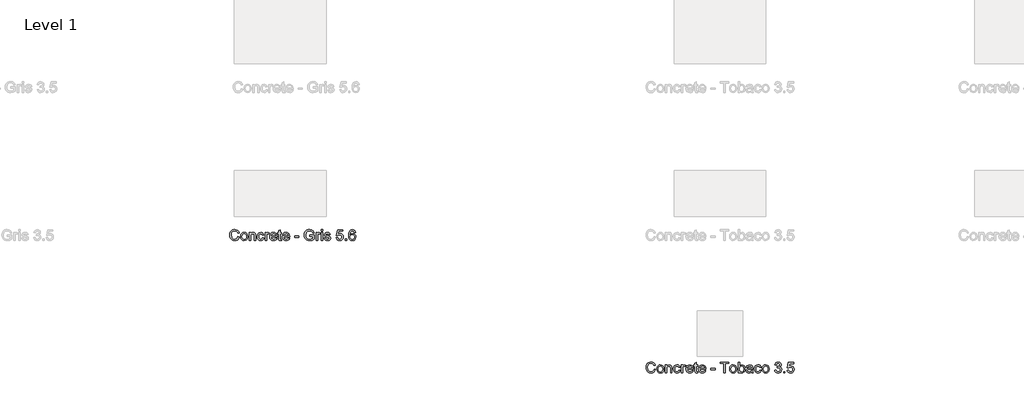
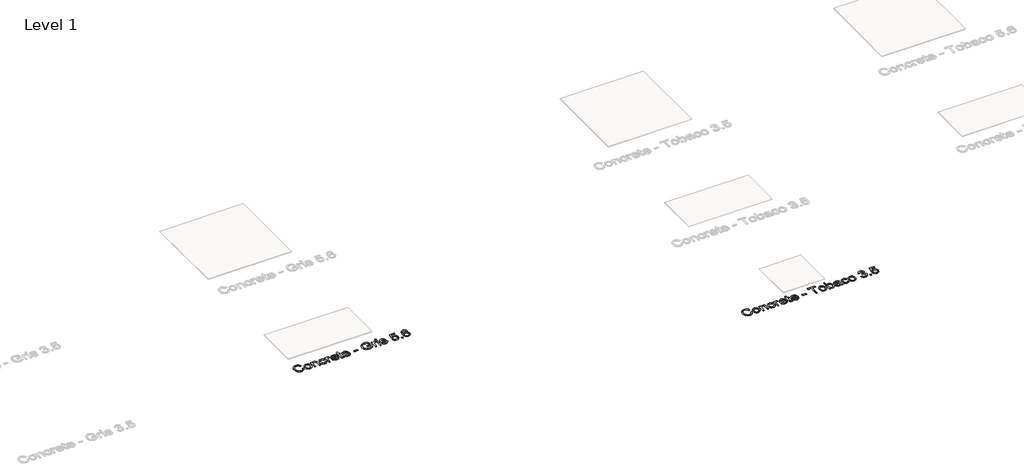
# One storey, part 48 of 80: 2 proxies.
"""IFC4 building model written with IfcOpenShell, lengths in millimetres."""

import ifcopenshell
import ifcopenshell.guid

model = None  # the IFC model being written
_history = None  # IfcOwnerHistory: only IFC2X3 demands one
_inside = {}  # id of a spatial element -> (the spatial element, [elements in it])
_under = {}  # id of a project, library or spatial element -> (it, [spatial elements below it])
_declared = {}  # id of a project -> (the project, [libraries it declares])
_typed = {}  # id of a type object -> (the type object, [elements of that type])
_made_of = {}  # id of a material, layer set ... -> (it, [elements and type objects made of it])


def new_model(schema):
    """Start an empty IFC model of exactly this schema.

    Asked for "IFC4X3", IfcOpenShell would pick the latest addendum, in which some entities
    have other attributes; the version numbers below select the first issue.
    IFC2X3 requires an IfcOwnerHistory on every rooted entity: one is made here for all.
    """
    global model, _history
    if schema == "IFC4X3":
        model = ifcopenshell.file(schema_version=(4, 3, 0, 0))
    else:
        model = ifcopenshell.file(schema=schema)
    _inside.clear()
    _under.clear()
    _declared.clear()
    _typed.clear()
    _made_of.clear()
    _history = None
    if model.schema == "IFC2X3":
        org = make("IfcOrganization", Name="unknown")
        user = make(
            "IfcPersonAndOrganization",
            ThePerson=make("IfcPerson", FamilyName="unknown"),
            TheOrganization=org,
        )
        app = make(
            "IfcApplication",
            ApplicationDeveloper=org,
            Version="unknown",
            ApplicationFullName="unknown",
            ApplicationIdentifier="unknown",
        )
        _history = make(
            "IfcOwnerHistory",
            OwningUser=user,
            OwningApplication=app,
            ChangeAction="ADDED",
            CreationDate=0,
        )
    return model


def make(cls, **values):
    """One entity of the class cls with the attributes given. An attribute that is None is left unset."""
    return model.create_entity(
        cls, **{name: value for name, value in values.items() if value is not None}
    )


def rooted(cls, **values):
    """An entity with a GlobalId (a new one), such as an element, a storey or a relation."""
    return make(cls, GlobalId=ifcopenshell.guid.new(), OwnerHistory=_history, **values)


def si_unit(unit_type, name, prefix=None):
    """IfcSIUnit, for example si_unit("LENGTHUNIT", "METRE", prefix="MILLI")."""
    return make("IfcSIUnit", UnitType=unit_type, Prefix=prefix, Name=name)


def assignment(units):
    """IfcUnitAssignment: the units of a project."""
    return None if units is None else make("IfcUnitAssignment", Units=units)


def point(xyz):
    """IfcCartesianPoint."""
    return None if xyz is None else make("IfcCartesianPoint", Coordinates=xyz)


def direction(xyz):
    """IfcDirection."""
    return None if xyz is None else make("IfcDirection", DirectionRatios=xyz)


def frame(location, z_axis=None, x_axis=None):
    """IfcAxis2Placement3D, a coordinate frame: its origin and axes. An axis left out is left unset."""
    return make(
        "IfcAxis2Placement3D",
        Location=point(location),
        Axis=direction(z_axis),
        RefDirection=direction(x_axis),
    )


def origin():
    """The frame at (0, 0, 0) with its axes left unset."""
    return frame((0.0, 0.0, 0.0))


def origin_with_axes():
    """The frame at (0, 0, 0) with the z axis (0, 0, 1) and the x axis (1, 0, 0) written out."""
    return frame((0.0, 0.0, 0.0), z_axis=(0.0, 0.0, 1.0), x_axis=(1.0, 0.0, 0.0))


def place(relative_to, where):
    """IfcLocalPlacement: puts the frame where relative to a parent placement (None: the world)."""
    return make(
        "IfcLocalPlacement", PlacementRelTo=relative_to, RelativePlacement=where
    )


def context(
    kind, dimensions, precision=None, world=None, true_north=None, identifier=None
):
    """IfcGeometricRepresentationContext, for example the 3D "Model" context."""
    return make(
        "IfcGeometricRepresentationContext",
        ContextIdentifier=identifier,
        ContextType=kind,
        CoordinateSpaceDimension=dimensions,
        Precision=precision,
        WorldCoordinateSystem=world,
        TrueNorth=true_north,
    )


def project(units=None, contexts=None):
    """IfcProject with its units and contexts."""
    return rooted(
        "IfcProject",
        Name="project",
        RepresentationContexts=contexts,
        UnitsInContext=assignment(units),
    )


def spatial(cls, under=None, at=None, **own):
    """A site, building, storey or space (cls), placed at a placement, below another one or the project."""
    s = rooted(cls, ObjectPlacement=at, **own)
    if under is not None:
        _under.setdefault(under.id(), (under, []))[1].append(s)
    return s


def polyline(points):
    """IfcPolyline through the points."""
    return make("IfcPolyline", Points=[point(p) for p in points])


def outline(outer, holes=None, kind="AREA"):
    """IfcArbitraryClosedProfileDef: a profile drawn as a closed curve; with holes, ...WithVoids."""
    if holes is None:
        return make("IfcArbitraryClosedProfileDef", ProfileType=kind, OuterCurve=outer)
    return make(
        "IfcArbitraryProfileDefWithVoids",
        ProfileType=kind,
        OuterCurve=outer,
        InnerCurves=holes,
    )


def extrude(swept, where, along, depth):
    """IfcExtrudedAreaSolid: the profile swept, set in the frame where, extruded along a direction by depth."""
    return make(
        "IfcExtrudedAreaSolid",
        SweptArea=swept,
        Position=where,
        ExtrudedDirection=direction(along),
        Depth=depth,
    )


def shape(context_of_items, identifier, shape_type, items):
    """IfcShapeRepresentation: the items that make up one representation, for example the "Body"."""
    return make(
        "IfcShapeRepresentation",
        ContextOfItems=context_of_items,
        RepresentationIdentifier=identifier,
        RepresentationType=shape_type,
        Items=items,
    )


def made_of(thing, what):
    """Note that an element or type object is made of a material, layer set ...; save() writes the relation."""
    if what is not None:
        _made_of.setdefault(what.id(), (what, []))[1].append(thing)
    return thing


def element(
    cls,
    number,
    at=None,
    inside=None,
    cuts=None,
    type_object=None,
    material=None,
    context=None,
    identifier="Body",
    shape_type=None,
    held_by="IfcProductDefinitionShape",
    body=None,
    shapes=None,
    **own,
):
    """One element of the class cls, such as IfcWall. Its Tag is "e" and its number.

    at: its placement. inside: the storey or other place that contains it. cuts: it is an
    opening in that element (IfcRelVoidsElement). A single representation is given by context,
    identifier, shape_type and body (its items); several are given by shapes. held_by: the class
    of the entity that holds the representations. save() writes the other relations.
    """
    e = rooted(cls, Tag="e%d" % number, ObjectPlacement=at, **own)
    if body is not None:
        shapes = [shape(context, identifier, shape_type, body)]
    if shapes is not None:
        e.Representation = make(held_by, Representations=shapes)
    if inside is not None:
        _inside.setdefault(inside.id(), (inside, []))[1].append(e)
    if cuts is not None:
        rooted(
            "IfcRelVoidsElement", RelatingBuildingElement=cuts, RelatedOpeningElement=e
        )
    if type_object is not None:
        _typed.setdefault(type_object.id(), (type_object, []))[1].append(e)
    return made_of(e, material)


def aggregate(whole, parts):
    """IfcRelAggregates: a whole, such as a stair, and the parts it consists of."""
    return rooted("IfcRelAggregates", RelatingObject=whole, RelatedObjects=parts)


def save(model, path):
    """Write the relations noted so far, then the file.

    IfcRelAggregates (storeys below a building ...), IfcRelContainedInSpatialStructure (elements
    in a storey), IfcRelDefinesByType, IfcRelAssociatesMaterial and IfcRelDeclares: one each for
    every whole, place, type object, material and project.
    """
    for whole, parts in _under.values():
        aggregate(whole, parts)
    for where, things in _inside.values():
        rooted(
            "IfcRelContainedInSpatialStructure",
            RelatedElements=things,
            RelatingStructure=where,
        )
    for kind, things in _typed.values():
        rooted("IfcRelDefinesByType", RelatedObjects=things, RelatingType=kind)
    for what, things in _made_of.values():
        rooted("IfcRelAssociatesMaterial", RelatedObjects=things, RelatingMaterial=what)
    for by, libraries in _declared.values():
        rooted("IfcRelDeclares", RelatingContext=by, RelatedDefinitions=libraries)
    model.write(path)


model = new_model("IFC4")

# Units and contexts
model_context = context("Model", 3, world=origin())
ifc_project = project(units=[si_unit("LENGTHUNIT", "METRE", prefix="MILLI")], contexts=[model_context])

# Site, building, storey
site = spatial("IfcSite", under=ifc_project)
building = spatial("IfcBuilding", under=site)
storey = spatial("IfcBuildingStorey", under=building, Name="Level 1", Elevation=0.0)

# Proxies
placement = place(None, origin())
element("IfcBuildingElementProxy", 1, Name="24\" Arial", ObjectType="24\" Arial", at=placement, inside=storey, context=model_context, shape_type="SweptSolid", body=[
    extrude(outline(polyline([(-15667.0761079, 7132.3794502), (-15652.3068771, 7128.5717579), (-15659.121781, 7111.3614213), (-15669.8164925, 7098.788104), (-15683.8645694, 7091.0969982), (-15700.7395694, 7088.5332963), (-15717.8705791, 7090.4732002), (-15731.4751464, 7096.2929117), (-15741.903031, 7105.7905079), (-15749.5039925, 7118.7640655), (-15754.1446175, 7134.0164694), (-15755.6914925, 7150.350604), (-15753.9426944, 7167.5789694), (-15748.6963002, 7182.4563732), (-15740.2263483, 7194.5104598), (-15728.8068771, 7203.2688732), (-15715.2636079, 7208.6018059), (-15700.4222617, 7210.3794502), (-15684.2287521, 7208.0789694), (-15670.840531, 7201.1775271), (-15660.6758675, 7190.100604), (-15654.153031, 7175.2736809), (-15668.9222617, 7171.7544502), (-15674.0424541, 7182.5248829), (-15681.0376464, 7189.913104), (-15689.9943771, 7194.1859405), (-15700.9991848, 7195.6102194), (-15713.684281, 7194.0308925), (-15724.1049541, 7189.2929117), (-15732.012406, 7181.8938732), (-15737.1578387, 7172.3313732), (-15740.9222617, 7150.3794502), (-15736.465531, 7124.9371425), (-15730.7684156, 7115.4359405), (-15722.590531, 7108.6823348), (-15702.2107233, 7103.3025271), (-15689.8825983, 7105.1342579), (-15679.6097617, 7110.6294502), (-15671.8537521, 7119.7304117), (-15667.0761079, 7132.3794502)])), origin_with_axes(), (0.0, 0.0, 1.0), 2.0),
    extrude(outline(polyline([(-15637.5376464, 7133.7640655), (-15634.3429348, 7154.6847386), (-15624.7588002, 7169.3890655), (-15612.9174541, 7176.5933925), (-15598.7395694, 7178.9948348), (-15583.2239444, 7176.0705559), (-15570.8309156, 7167.2977194), (-15562.7071175, 7153.3686329), (-15559.9991848, 7134.975604), (-15564.7876464, 7108.6967579), (-15578.7347617, 7093.8265655), (-15598.7395694, 7088.5332963), (-15614.4426944, 7091.4467579), (-15626.8213002, 7100.1871425), (-15634.8585598, 7114.4082963), (-15637.5376464, 7133.7640655)]), holes=[polyline([(-15622.7684156, 7133.7929117), (-15621.059281, 7120.4263252), (-15615.9318771, 7110.9034886), (-15608.215531, 7105.2027675), (-15598.7395694, 7103.3025271), (-15589.3068771, 7105.2135848), (-15581.6049541, 7110.9467579), (-15576.4775502, 7120.5957963), (-15574.7684156, 7134.2544502), (-15576.4883675, 7147.2316136), (-15581.6482233, 7156.6246425), (-15589.3609637, 7162.3253636), (-15598.7395694, 7164.225604), (-15608.215531, 7162.3325752), (-15615.9318771, 7156.6534886), (-15621.059281, 7147.1522867), (-15622.7684156, 7133.7929117)])]), origin_with_axes(), (0.0, 0.0, 1.0), 2.0),
    extrude(outline(polyline([(-15543.3838002, 7090.3794502), (-15543.3838002, 7177.1486809), (-15528.6145694, 7177.1486809), (-15528.6145694, 7165.0332963), (-15517.3213002, 7175.5044502), (-15501.903031, 7178.9948348), (-15487.9559156, 7176.1823348), (-15478.4366848, 7168.7977194), (-15474.0088002, 7157.9371425), (-15473.2299541, 7143.6582963), (-15473.2299541, 7090.3794502), (-15487.9991848, 7090.3794502), (-15487.9991848, 7141.6679117), (-15489.7011079, 7154.7352194), (-15495.715531, 7161.6438732), (-15505.8549541, 7164.225604), (-15521.8789925, 7158.4275271), (-15526.9306752, 7150.0260848), (-15528.6145694, 7136.4179117), (-15528.6145694, 7090.3794502), (-15543.3838002, 7090.3794502)])), origin_with_axes(), (0.0, 0.0, 1.0), 2.0),
    extrude(outline(polyline([(-15397.5376464, 7121.7640655), (-15382.7684156, 7119.9179117), (-15386.8862041, 7106.7820944), (-15394.6241848, 7096.8554117), (-15405.2539925, 7090.6138252), (-15418.0472617, 7088.5332963), (-15433.7575983, 7091.4359405), (-15446.0424541, 7100.1438732), (-15453.9715406, 7114.2748829), (-15456.6145694, 7133.4467579), (-15452.1001464, 7157.9804117), (-15446.403031, 7167.178729), (-15438.340531, 7173.7448348), (-15418.2491848, 7178.9948348), (-15405.7696175, 7177.1919502), (-15395.7924541, 7171.7832963), (-15388.6350021, 7163.0573348), (-15384.6145694, 7151.3025271), (-15399.3838002, 7149.4563732), (-15406.2347617, 7160.5188732), (-15418.1338002, 7164.225604), (-15427.6782714, 7162.4010848), (-15435.2539925, 7156.9275271), (-15440.1975021, 7147.5092579), (-15441.8453387, 7133.850604), (-15440.2335598, 7120.0080559), (-15435.3982233, 7110.5573348), (-15427.9595214, 7105.116229), (-15418.5376464, 7103.3025271), (-15404.6193771, 7107.8313732), (-15397.5376464, 7121.7640655)])), origin_with_axes(), (0.0, 0.0, 1.0), 2.0),
    extrude(outline(polyline([(-15369.8453387, 7090.3794502), (-15369.8453387, 7177.1486809), (-15356.9222617, 7177.1486809), (-15356.9222617, 7164.3121425), (-15347.7491848, 7176.1390655), (-15338.5184156, 7178.9948348), (-15323.6914925, 7174.4371425), (-15328.6241848, 7161.1967579), (-15339.0088002, 7164.225604), (-15347.3597617, 7161.3121425), (-15352.6818771, 7153.2352194), (-15355.0761079, 7135.9852194), (-15355.0761079, 7090.3794502), (-15369.8453387, 7090.3794502)])), origin_with_axes(), (0.0, 0.0, 1.0), 2.0),
    extrude(outline(polyline([(-15253.7107233, 7116.225604), (-15239.2299541, 7114.3794502), (-15244.4475021, 7103.4683925), (-15252.7732233, 7095.3121425), (-15264.0196175, 7090.2280079), (-15277.9991848, 7088.5332963), (-15295.3285117, 7091.4575752), (-15308.6626464, 7100.2304117), (-15317.1650502, 7114.2820944), (-15319.9991848, 7133.0429117), (-15317.1362041, 7152.4347386), (-15308.5472617, 7166.9371425), (-15295.3934156, 7175.9804117), (-15278.8357233, 7178.9948348), (-15262.793656, 7175.9876232), (-15249.9751464, 7166.9659886), (-15241.5700983, 7152.4924309), (-15238.7684156, 7133.1294502), (-15238.8549541, 7129.1486809), (-15305.2299541, 7129.1486809), (-15302.6734637, 7118.0933925), (-15296.7347617, 7109.9659886), (-15288.1638483, 7104.9683925), (-15277.7107233, 7103.3025271), (-15263.2299541, 7106.3890655), (-15253.7107233, 7116.225604)]), holes=[polyline([(-15305.2299541, 7143.9179117), (-15253.5376464, 7143.9179117), (-15259.4511079, 7157.3025271), (-15268.0616848, 7162.4948348), (-15278.8934156, 7164.225604), (-15297.0809156, 7158.7015655), (-15302.8032714, 7152.2436329), (-15305.2299541, 7143.9179117)])]), origin_with_axes(), (0.0, 0.0, 1.0), 2.0),
    extrude(outline(polyline([(-15192.6145694, 7102.6967579), (-15190.7684156, 7089.9467579), (-15201.8164925, 7088.5332963), (-15214.1914925, 7090.9852194), (-15220.3645694, 7097.4179117), (-15222.153031, 7114.1775271), (-15222.153031, 7162.3794502), (-15233.2299541, 7162.3794502), (-15233.2299541, 7177.1486809), (-15222.153031, 7177.1486809), (-15222.153031, 7198.2352194), (-15207.3838002, 7206.9179117), (-15207.3838002, 7177.1486809), (-15192.6145694, 7177.1486809), (-15192.6145694, 7162.3794502), (-15207.3838002, 7162.3794502), (-15207.3838002, 7114.6102194), (-15206.6049541, 7106.9948348), (-15204.0809156, 7104.2977194), (-15199.0472617, 7103.3025271), (-15192.6145694, 7102.6967579)])), origin_with_axes(), (0.0, 0.0, 1.0), 2.0),
    extrude(outline(polyline([(-15117.0953387, 7116.225604), (-15102.6145694, 7114.3794502), (-15107.8321175, 7103.4683925), (-15116.1578387, 7095.3121425), (-15127.4042329, 7090.2280079), (-15141.3838002, 7088.5332963), (-15158.7131271, 7091.4575752), (-15172.0472617, 7100.2304117), (-15180.5496656, 7114.2820944), (-15183.3838002, 7133.0429117), (-15180.5208194, 7152.4347386), (-15171.9318771, 7166.9371425), (-15158.778031, 7175.9804117), (-15142.2203387, 7178.9948348), (-15126.1782714, 7175.9876232), (-15113.3597617, 7166.9659886), (-15104.9547137, 7152.4924309), (-15102.153031, 7133.1294502), (-15102.2395694, 7129.1486809), (-15168.6145694, 7129.1486809), (-15166.0580791, 7118.0933925), (-15160.1193771, 7109.9659886), (-15151.5484637, 7104.9683925), (-15141.0953387, 7103.3025271), (-15126.6145694, 7106.3890655), (-15117.0953387, 7116.225604)]), holes=[polyline([(-15168.6145694, 7143.9179117), (-15116.9222617, 7143.9179117), (-15122.8357233, 7157.3025271), (-15131.4463002, 7162.4948348), (-15142.278031, 7164.225604), (-15160.465531, 7158.7015655), (-15166.1878867, 7152.2436329), (-15168.6145694, 7143.9179117)])]), origin_with_axes(), (0.0, 0.0, 1.0), 2.0),
    extrude(outline(polyline([(-15048.6145694, 7125.4563732), (-15048.6145694, 7140.225604), (-15002.4607233, 7140.225604), (-15002.4607233, 7125.4563732), (-15048.6145694, 7125.4563732)])), origin_with_axes(), (0.0, 0.0, 1.0), 2.0),
    extrude(outline(polyline([(-14882.4607233, 7136.5332963), (-14882.4607233, 7151.3025271), (-14834.4607233, 7151.3025271), (-14834.4607233, 7107.1390655), (-14858.1578387, 7093.2063732), (-14883.2107233, 7088.5332963), (-14899.7792329, 7090.3902675), (-14914.7539925, 7095.9611809), (-14927.1938964, 7105.0513252), (-14936.1578387, 7117.4659886), (-14941.5773098, 7132.3578155), (-14943.3838002, 7148.8794502), (-14941.5845214, 7165.5200752), (-14936.1866848, 7180.9996425), (-14927.4138483, 7193.9840175), (-14915.4895694, 7203.1390655), (-14900.965531, 7208.569354), (-14884.3934156, 7210.3794502), (-14861.2876464, 7206.1823348), (-14845.090531, 7194.4996425), (-14836.1626464, 7174.9563732), (-14849.778031, 7171.1198348), (-14856.5136079, 7184.7784886), (-14868.0232233, 7192.6534886), (-14884.6241848, 7195.6102194), (-14903.5328387, 7192.4227194), (-14916.3982233, 7184.0573348), (-14923.9991848, 7172.6775271), (-14928.6145694, 7149.4852194), (-14927.2263483, 7135.3614213), (-14923.0616848, 7123.7400271), (-14916.246781, 7114.7039694), (-14906.9078387, 7108.3361809), (-14884.3934156, 7103.3025271), (-14864.1866848, 7107.0957963), (-14849.2299541, 7115.1871425), (-14849.2299541, 7136.5332963), (-14882.4607233, 7136.5332963)])), origin_with_axes(), (0.0, 0.0, 1.0), 2.0),
    extrude(outline(polyline([(-14812.3068771, 7090.3794502), (-14812.3068771, 7177.1486809), (-14799.3838002, 7177.1486809), (-14799.3838002, 7164.3121425), (-14790.2107233, 7176.1390655), (-14780.9799541, 7178.9948348), (-14766.153031, 7174.4371425), (-14771.0857233, 7161.1967579), (-14781.4703387, 7164.225604), (-14789.8213002, 7161.3121425), (-14795.1434156, 7153.2352194), (-14797.5376464, 7135.9852194), (-14797.5376464, 7090.3794502), (-14812.3068771, 7090.3794502)])), origin_with_axes(), (0.0, 0.0, 1.0), 2.0),
    extrude(outline(polyline([(-14756.9222617, 7193.7640655), (-14756.9222617, 7208.5332963), (-14742.153031, 7208.5332963), (-14742.153031, 7193.7640655), (-14756.9222617, 7193.7640655)])), origin_with_axes(), (0.0, 0.0, 1.0), 2.0),
    extrude(outline(polyline([(-14756.9222617, 7090.3794502), (-14756.9222617, 7177.1486809), (-14742.153031, 7177.1486809), (-14742.153031, 7090.3794502), (-14756.9222617, 7090.3794502)])), origin_with_axes(), (0.0, 0.0, 1.0), 2.0),
    extrude(outline(polyline([(-14725.5376464, 7116.225604), (-14710.7684156, 7118.0717579), (-14703.9318771, 7107.1102194), (-14688.2684156, 7103.3025271), (-14673.2107233, 7106.7929117), (-14668.3068771, 7114.9852194), (-14673.2395694, 7121.6198348), (-14688.4414925, 7125.8313732), (-14710.6818771, 7133.0573348), (-14720.3886079, 7141.4948348), (-14723.6914925, 7153.4082963), (-14721.0376464, 7164.413104), (-14713.7972617, 7172.8217579), (-14704.4078387, 7177.1919502), (-14691.7011079, 7178.9948348), (-14673.7299541, 7176.0957963), (-14662.3068771, 7168.2496425), (-14657.2299541, 7154.9948348), (-14671.9991848, 7153.1486809), (-14677.5520694, 7161.2977194), (-14690.5472617, 7164.225604), (-14704.6818771, 7161.4275271), (-14708.9222617, 7154.9082963), (-14707.1626464, 7150.6102194), (-14701.653031, 7147.350604), (-14688.9318771, 7144.2063732), (-14667.2539925, 7137.2544502), (-14657.1866848, 7129.3794502), (-14653.5376464, 7116.5429117), (-14657.8213002, 7102.4082963), (-14670.1818771, 7092.1534886), (-14688.4703387, 7088.5332963), (-14703.3621656, 7090.2784886), (-14714.2299541, 7095.5140655), (-14721.4847617, 7104.1823348), (-14725.5376464, 7116.225604)])), origin_with_axes(), (0.0, 0.0, 1.0), 2.0),
    extrude(outline(polyline([(-14594.4607233, 7121.7640655), (-14579.6914925, 7123.6102194), (-14572.2491848, 7108.3938732), (-14556.8164925, 7103.3025271), (-14546.2299541, 7105.0729598), (-14538.2972617, 7110.3842579), (-14533.3429348, 7118.6234405), (-14531.6914925, 7129.1775271), (-14533.2383675, 7139.1150271), (-14537.8789925, 7146.7159886), (-14545.6494252, 7151.5405079), (-14556.5857233, 7153.1486809), (-14569.5520694, 7150.5813732), (-14577.8453387, 7143.9179117), (-14592.6145694, 7145.7640655), (-14579.6914925, 7206.6871425), (-14522.4607233, 7206.6871425), (-14522.4607233, 7191.9179117), (-14567.7491848, 7191.9179117), (-14574.0664925, 7159.3794502), (-14563.5160117, 7165.7832963), (-14552.4607233, 7167.9179117), (-14538.6614444, 7165.2712771), (-14527.2059156, 7157.3313732), (-14519.4931752, 7145.2304117), (-14516.9222617, 7130.100604), (-14519.2371656, 7115.3313732), (-14526.1818771, 7102.6967579), (-14539.4799541, 7092.0741617), (-14556.8741848, 7088.5332963), (-14571.3801944, 7090.8085367), (-14582.9366848, 7097.6342579), (-14590.8585598, 7108.2171905), (-14594.4607233, 7121.7640655)])), origin_with_axes(), (0.0, 0.0, 1.0), 2.0),
    extrude(outline(polyline([(-14496.6145694, 7090.3794502), (-14496.6145694, 7105.1486809), (-14481.8453387, 7105.1486809), (-14481.8453387, 7090.3794502), (-14496.6145694, 7090.3794502)])), origin_with_axes(), (0.0, 0.0, 1.0), 2.0),
    extrude(outline(polyline([(-14382.153031, 7177.1486809), (-14396.9222617, 7175.3025271), (-14402.5184156, 7187.6198348), (-14409.2179348, 7192.2280079), (-14417.3164925, 7193.7640655), (-14430.6434156, 7190.1871425), (-14440.7251464, 7176.7592579), (-14444.9222617, 7150.4371425), (-14431.8982233, 7162.2207963), (-14415.7588002, 7166.0717579), (-14402.1145694, 7163.4395463), (-14390.6626464, 7155.5429117), (-14382.8958194, 7143.4780079), (-14380.3068771, 7128.3409886), (-14385.1818771, 7107.9611809), (-14398.5953387, 7093.538104), (-14417.9511079, 7088.5332963), (-14434.7071175, 7091.850604), (-14448.0520694, 7101.8025271), (-14456.7816367, 7119.3698348), (-14459.6914925, 7145.5332963), (-14456.4607233, 7174.9491617), (-14446.7684156, 7195.0621425), (-14433.5352425, 7205.1655079), (-14416.3934156, 7208.5332963), (-14403.434281, 7206.4491617), (-14393.0568771, 7200.1967579), (-14385.7876464, 7190.2664694), (-14382.153031, 7177.1486809)]), holes=[polyline([(-14444.9222617, 7128.5717579), (-14441.5039925, 7115.7784886), (-14432.4174541, 7106.4900271), (-14419.1049541, 7103.3025271), (-14409.3585598, 7104.9539694), (-14401.6963002, 7109.9082963), (-14396.731156, 7117.6967579), (-14395.0761079, 7127.850604), (-14396.7095214, 7137.5969982), (-14401.6097617, 7145.0284886), (-14409.4018291, 7149.7340175), (-14419.7107233, 7151.3025271), (-14429.4426944, 7149.7340175), (-14437.5809156, 7145.0284886), (-14443.0869252, 7137.7772867), (-14444.9222617, 7128.5717579)])]), origin_with_axes(), (0.0, 0.0, 1.0), 2.0),
])
element("IfcBuildingElementProxy", 2, Name="24\" Arial", ObjectType="24\" Arial", at=placement, inside=storey, context=model_context, shape_type="SweptSolid", body=[
    extrude(outline(polyline([(-11124.6145694, 5685.3136623), (-11109.8453387, 5681.50597), (-11116.6602425, 5664.2956335), (-11127.3549541, 5651.7223162), (-11141.403031, 5644.0312104), (-11158.278031, 5641.4675085), (-11175.4090406, 5643.4074123), (-11189.0136079, 5649.2271239), (-11199.4414925, 5658.72472), (-11207.0424541, 5671.6982777), (-11211.6830791, 5686.9506816), (-11213.2299541, 5703.2848162), (-11211.481156, 5720.5131816), (-11206.2347617, 5735.3905854), (-11197.7648098, 5747.444672), (-11186.3453387, 5756.2030854), (-11172.8020694, 5761.5360181), (-11157.9607233, 5763.3136623), (-11141.7672137, 5761.0131816), (-11128.3789925, 5754.1117393), (-11118.2143291, 5743.0348162), (-11111.6914925, 5728.2078931), (-11126.4607233, 5724.6886623), (-11131.5809156, 5735.459095), (-11138.5761079, 5742.8473162), (-11147.5328387, 5747.1201527), (-11158.5376464, 5748.5444316), (-11171.2227425, 5746.9651047), (-11181.6434156, 5742.2271239), (-11189.5508675, 5734.8280854), (-11194.6963002, 5725.2655854), (-11198.4607233, 5703.3136623), (-11194.0039925, 5677.8713547), (-11188.3068771, 5668.3701527), (-11180.1289925, 5661.616547), (-11159.7491848, 5656.2367393), (-11147.4210598, 5658.06847), (-11137.1482233, 5663.5636623), (-11129.3922137, 5672.6646239), (-11124.6145694, 5685.3136623)])), origin_with_axes(), (0.0, 0.0, 1.0), 2.0),
    extrude(outline(polyline([(-11095.0761079, 5686.6982777), (-11091.8813964, 5707.6189508), (-11082.2972617, 5722.3232777), (-11070.4559156, 5729.5276047), (-11056.278031, 5731.929047), (-11040.762406, 5729.0047681), (-11028.3693771, 5720.2319316), (-11020.2455791, 5706.302845), (-11017.5376464, 5687.9098162), (-11022.3261079, 5661.63097), (-11036.2732233, 5646.7607777), (-11056.278031, 5641.4675085), (-11071.981156, 5644.38097), (-11084.3597617, 5653.1213547), (-11092.3970214, 5667.3425085), (-11095.0761079, 5686.6982777)]), holes=[polyline([(-11080.3068771, 5686.7271239), (-11078.5977425, 5673.3605373), (-11073.4703387, 5663.8377008), (-11065.7539925, 5658.1369797), (-11056.278031, 5656.2367393), (-11046.8453387, 5658.147797), (-11039.1434156, 5663.88097), (-11034.0160117, 5673.5300085), (-11032.3068771, 5687.1886623), (-11034.0268291, 5700.1658258), (-11039.1866848, 5709.5588547), (-11046.8994252, 5715.2595758), (-11056.278031, 5717.1598162), (-11065.7539925, 5715.2667873), (-11073.4703387, 5709.5877008), (-11078.5977425, 5700.0864989), (-11080.3068771, 5686.7271239)])]), origin_with_axes(), (0.0, 0.0, 1.0), 2.0),
    extrude(outline(polyline([(-11000.9222617, 5643.3136623), (-11000.9222617, 5730.0828931), (-10986.153031, 5730.0828931), (-10986.153031, 5717.9675085), (-10974.8597617, 5728.4386623), (-10959.4414925, 5731.929047), (-10945.4943771, 5729.116547), (-10935.9751464, 5721.7319316), (-10931.5472617, 5710.8713547), (-10930.7684156, 5696.5925085), (-10930.7684156, 5643.3136623), (-10945.5376464, 5643.3136623), (-10945.5376464, 5694.6021239), (-10947.2395694, 5707.6694316), (-10953.2539925, 5714.5780854), (-10963.3934156, 5717.1598162), (-10979.4174541, 5711.3617393), (-10984.4691367, 5702.960297), (-10986.153031, 5689.3521239), (-10986.153031, 5643.3136623), (-11000.9222617, 5643.3136623)])), origin_with_axes(), (0.0, 0.0, 1.0), 2.0),
    extrude(outline(polyline([(-10855.0761079, 5674.6982777), (-10840.3068771, 5672.8521239), (-10844.4246656, 5659.7163066), (-10852.1626464, 5649.7896239), (-10862.7924541, 5643.5480373), (-10875.5857233, 5641.4675085), (-10891.2960598, 5644.3701527), (-10903.5809156, 5653.0780854), (-10911.5100021, 5667.209095), (-10914.153031, 5686.38097), (-10909.6386079, 5710.9146239), (-10903.9414925, 5720.1129412), (-10895.8789925, 5726.679047), (-10875.7876464, 5731.929047), (-10863.3080791, 5730.1261623), (-10853.3309156, 5724.7175085), (-10846.1734637, 5715.991547), (-10842.153031, 5704.2367393), (-10856.9222617, 5702.3905854), (-10863.7732233, 5713.4530854), (-10875.6722617, 5717.1598162), (-10885.2167329, 5715.335297), (-10892.7924541, 5709.8617393), (-10897.7359637, 5700.44347), (-10899.3838002, 5686.7848162), (-10897.7720214, 5672.9422681), (-10892.9366848, 5663.491547), (-10885.4979829, 5658.0504412), (-10876.0761079, 5656.2367393), (-10862.1578387, 5660.7655854), (-10855.0761079, 5674.6982777)])), origin_with_axes(), (0.0, 0.0, 1.0), 2.0),
    extrude(outline(polyline([(-10827.3838002, 5643.3136623), (-10827.3838002, 5730.0828931), (-10814.4607233, 5730.0828931), (-10814.4607233, 5717.2463547), (-10805.2876464, 5729.0732777), (-10796.0568771, 5731.929047), (-10781.2299541, 5727.3713547), (-10786.1626464, 5714.13097), (-10796.5472617, 5717.1598162), (-10804.8982233, 5714.2463547), (-10810.2203387, 5706.1694316), (-10812.6145694, 5688.9194316), (-10812.6145694, 5643.3136623), (-10827.3838002, 5643.3136623)])), origin_with_axes(), (0.0, 0.0, 1.0), 2.0),
    extrude(outline(polyline([(-10711.2491848, 5669.1598162), (-10696.7684156, 5667.3136623), (-10701.9859637, 5656.4026047), (-10710.3116848, 5648.2463547), (-10721.5580791, 5643.16222), (-10735.5376464, 5641.4675085), (-10752.8669733, 5644.3917873), (-10766.2011079, 5653.1646239), (-10774.7035117, 5667.2163066), (-10777.5376464, 5685.9771239), (-10774.6746656, 5705.3689508), (-10766.0857233, 5719.8713547), (-10752.9318771, 5728.9146239), (-10736.3741848, 5731.929047), (-10720.3321175, 5728.9218354), (-10707.5136079, 5719.9002008), (-10699.1085598, 5705.4266431), (-10696.3068771, 5686.0636623), (-10696.3934156, 5682.0828931), (-10762.7684156, 5682.0828931), (-10760.2119252, 5671.0276047), (-10754.2732233, 5662.9002008), (-10745.7023098, 5657.9026047), (-10735.2491848, 5656.2367393), (-10720.7684156, 5659.3232777), (-10711.2491848, 5669.1598162)]), holes=[polyline([(-10762.7684156, 5696.8521239), (-10711.0761079, 5696.8521239), (-10716.9895694, 5710.2367393), (-10725.6001464, 5715.429047), (-10736.4318771, 5717.1598162), (-10754.6193771, 5711.6357777), (-10760.3417329, 5705.177845), (-10762.7684156, 5696.8521239)])]), origin_with_axes(), (0.0, 0.0, 1.0), 2.0),
    extrude(outline(polyline([(-10650.153031, 5655.63097), (-10648.3068771, 5642.88097), (-10659.3549541, 5641.4675085), (-10671.7299541, 5643.9194316), (-10677.903031, 5650.3521239), (-10679.6914925, 5667.1117393), (-10679.6914925, 5715.3136623), (-10690.7684156, 5715.3136623), (-10690.7684156, 5730.0828931), (-10679.6914925, 5730.0828931), (-10679.6914925, 5751.1694316), (-10664.9222617, 5759.8521239), (-10664.9222617, 5730.0828931), (-10650.153031, 5730.0828931), (-10650.153031, 5715.3136623), (-10664.9222617, 5715.3136623), (-10664.9222617, 5667.5444316), (-10664.1434156, 5659.929047), (-10661.6193771, 5657.2319316), (-10656.5857233, 5656.2367393), (-10650.153031, 5655.63097)])), origin_with_axes(), (0.0, 0.0, 1.0), 2.0),
    extrude(outline(polyline([(-10574.6338002, 5669.1598162), (-10560.153031, 5667.3136623), (-10565.3705791, 5656.4026047), (-10573.6963002, 5648.2463547), (-10584.9426944, 5643.16222), (-10598.9222617, 5641.4675085), (-10616.2515887, 5644.3917873), (-10629.5857233, 5653.1646239), (-10638.0881271, 5667.2163066), (-10640.9222617, 5685.9771239), (-10638.059281, 5705.3689508), (-10629.4703387, 5719.8713547), (-10616.3164925, 5728.9146239), (-10599.7588002, 5731.929047), (-10583.7167329, 5728.9218354), (-10570.8982233, 5719.9002008), (-10562.4931752, 5705.4266431), (-10559.6914925, 5686.0636623), (-10559.778031, 5682.0828931), (-10626.153031, 5682.0828931), (-10623.5965406, 5671.0276047), (-10617.6578387, 5662.9002008), (-10609.0869252, 5657.9026047), (-10598.6338002, 5656.2367393), (-10584.153031, 5659.3232777), (-10574.6338002, 5669.1598162)]), holes=[polyline([(-10626.153031, 5696.8521239), (-10574.4607233, 5696.8521239), (-10580.3741848, 5710.2367393), (-10588.9847617, 5715.429047), (-10599.8164925, 5717.1598162), (-10618.0039925, 5711.6357777), (-10623.7263483, 5705.177845), (-10626.153031, 5696.8521239)])]), origin_with_axes(), (0.0, 0.0, 1.0), 2.0),
    extrude(outline(polyline([(-10506.153031, 5678.3905854), (-10506.153031, 5693.1598162), (-10459.9991848, 5693.1598162), (-10459.9991848, 5678.3905854), (-10506.153031, 5678.3905854)])), origin_with_axes(), (0.0, 0.0, 1.0), 2.0),
    extrude(outline(polyline([(-10365.8453387, 5643.3136623), (-10365.8453387, 5746.6982777), (-10404.6145694, 5746.6982777), (-10404.6145694, 5761.4675085), (-10312.3068771, 5761.4675085), (-10312.3068771, 5746.6982777), (-10351.0761079, 5746.6982777), (-10351.0761079, 5643.3136623), (-10365.8453387, 5643.3136623)])), origin_with_axes(), (0.0, 0.0, 1.0), 2.0),
    extrude(outline(polyline([(-10301.2299541, 5686.6982777), (-10298.0352425, 5707.6189508), (-10288.4511079, 5722.3232777), (-10276.6097617, 5729.5276047), (-10262.4318771, 5731.929047), (-10246.9162521, 5729.0047681), (-10234.5232233, 5720.2319316), (-10226.3994252, 5706.302845), (-10223.6914925, 5687.9098162), (-10228.4799541, 5661.63097), (-10242.4270694, 5646.7607777), (-10262.4318771, 5641.4675085), (-10278.1350021, 5644.38097), (-10290.5136079, 5653.1213547), (-10298.5508675, 5667.3425085), (-10301.2299541, 5686.6982777)]), holes=[polyline([(-10286.4607233, 5686.7271239), (-10284.7515887, 5673.3605373), (-10279.6241848, 5663.8377008), (-10271.9078387, 5658.1369797), (-10262.4318771, 5656.2367393), (-10252.9991848, 5658.147797), (-10245.2972617, 5663.88097), (-10240.1698579, 5673.5300085), (-10238.4607233, 5687.1886623), (-10240.1806752, 5700.1658258), (-10245.340531, 5709.5588547), (-10253.0532714, 5715.2595758), (-10262.4318771, 5717.1598162), (-10271.9078387, 5715.2667873), (-10279.6241848, 5709.5877008), (-10284.7515887, 5700.0864989), (-10286.4607233, 5686.7271239)])]), origin_with_axes(), (0.0, 0.0, 1.0), 2.0),
    extrude(outline(polyline([(-10192.3068771, 5643.3136623), (-10207.0761079, 5643.3136623), (-10207.0761079, 5761.4675085), (-10192.3068771, 5761.4675085), (-10192.3068771, 5717.6502008), (-10181.965531, 5728.3593354), (-10169.1145694, 5731.929047), (-10154.3164925, 5728.7127008), (-10142.8357233, 5719.6694316), (-10135.7828387, 5705.6069316), (-10133.2299541, 5687.9963547), (-10135.8729829, 5668.2800085), (-10143.8020694, 5653.6117393), (-10155.4378867, 5644.5035662), (-10169.2011079, 5641.4675085), (-10182.3333194, 5645.3833739), (-10192.3068771, 5657.13097), (-10192.3068771, 5643.3136623)]), holes=[polyline([(-10192.3068771, 5687.304047), (-10188.2684156, 5666.6502008), (-10180.5304348, 5658.8401047), (-10170.4703387, 5656.2367393), (-10161.9463002, 5658.1550085), (-10154.6626464, 5663.9098162), (-10149.6650502, 5673.4651047), (-10147.9991848, 5686.7848162), (-10149.5965406, 5700.2992393), (-10154.3886079, 5709.7463547), (-10161.4450983, 5715.3064508), (-10169.8357233, 5717.1598162), (-10178.3597617, 5715.241547), (-10185.6434156, 5709.4867393), (-10190.6410117, 5700.1045277), (-10192.3068771, 5687.304047)])]), origin_with_axes(), (0.0, 0.0, 1.0), 2.0),
    extrude(outline(polyline([(-10061.2299541, 5654.3905854), (-10075.5520694, 5644.38097), (-10091.3741848, 5641.4675085), (-10103.7167329, 5643.2199123), (-10112.8213002, 5648.4771239), (-10118.4354829, 5656.460297), (-10120.3068771, 5666.3905854), (-10117.4799541, 5678.0732777), (-10110.0520694, 5686.554047), (-10099.7107233, 5691.4002008), (-10086.9318771, 5693.6213547), (-10061.3164925, 5698.6982777), (-10061.2299541, 5701.9867393), (-10065.2972617, 5712.8905854), (-10081.6241848, 5717.1598162), (-10096.5664925, 5714.31847), (-10103.6914925, 5704.2367393), (-10118.4607233, 5706.0828931), (-10112.0713002, 5720.50597), (-10099.2059156, 5728.9578931), (-10079.7203387, 5731.929047), (-10061.8213002, 5729.304047), (-10051.7107233, 5722.7127008), (-10047.1818771, 5712.6886623), (-10046.4607233, 5699.7655854), (-10046.4607233, 5681.3905854), (-10045.7107233, 5655.7319316), (-10042.7684156, 5643.3136623), (-10057.5376464, 5643.3136623), (-10061.2299541, 5654.3905854)]), holes=[polyline([(-10061.2299541, 5683.929047), (-10085.0568771, 5679.4002008), (-10097.7636079, 5677.00597), (-10103.5184156, 5673.1117393), (-10105.5376464, 5667.429047), (-10101.1386079, 5659.4386623), (-10088.2299541, 5656.2367393), (-10073.2876464, 5659.7703931), (-10063.653031, 5668.3232777), (-10061.3164925, 5679.7463547), (-10061.2299541, 5683.929047)])]), origin_with_axes(), (0.0, 0.0, 1.0), 2.0),
    extrude(outline(polyline([(-9970.7684156, 5674.6982777), (-9955.9991848, 5672.8521239), (-9960.1169733, 5659.7163066), (-9967.8549541, 5649.7896239), (-9978.4847617, 5643.5480373), (-9991.278031, 5641.4675085), (-10006.9883675, 5644.3701527), (-10019.2732233, 5653.0780854), (-10027.2023098, 5667.209095), (-10029.8453387, 5686.38097), (-10025.3309156, 5710.9146239), (-10019.6338002, 5720.1129412), (-10011.5713002, 5726.679047), (-9991.4799541, 5731.929047), (-9979.0003867, 5730.1261623), (-9969.0232233, 5724.7175085), (-9961.8657714, 5715.991547), (-9957.8453387, 5704.2367393), (-9972.6145694, 5702.3905854), (-9979.465531, 5713.4530854), (-9991.3645694, 5717.1598162), (-10000.9090406, 5715.335297), (-10008.4847617, 5709.8617393), (-10013.4282714, 5700.44347), (-10015.0761079, 5686.7848162), (-10013.4643291, 5672.9422681), (-10008.6289925, 5663.491547), (-10001.1902906, 5658.0504412), (-9991.7684156, 5656.2367393), (-9977.8501464, 5660.7655854), (-9970.7684156, 5674.6982777)])), origin_with_axes(), (0.0, 0.0, 1.0), 2.0),
    extrude(outline(polyline([(-9946.7684156, 5686.6982777), (-9943.5737041, 5707.6189508), (-9933.9895694, 5722.3232777), (-9922.1482233, 5729.5276047), (-9907.9703387, 5731.929047), (-9892.4547137, 5729.0047681), (-9880.0616848, 5720.2319316), (-9871.9378867, 5706.302845), (-9869.2299541, 5687.9098162), (-9874.0184156, 5661.63097), (-9887.965531, 5646.7607777), (-9907.9703387, 5641.4675085), (-9923.6734637, 5644.38097), (-9936.0520694, 5653.1213547), (-9944.0893291, 5667.3425085), (-9946.7684156, 5686.6982777)]), holes=[polyline([(-9931.9991848, 5686.7271239), (-9930.2900502, 5673.3605373), (-9925.1626464, 5663.8377008), (-9917.4463002, 5658.1369797), (-9907.9703387, 5656.2367393), (-9898.5376464, 5658.147797), (-9890.8357233, 5663.88097), (-9885.7083194, 5673.5300085), (-9883.9991848, 5687.1886623), (-9885.7191367, 5700.1658258), (-9890.8789925, 5709.5588547), (-9898.5917329, 5715.2595758), (-9907.9703387, 5717.1598162), (-9917.4463002, 5715.2667873), (-9925.1626464, 5709.5877008), (-9930.2900502, 5700.0864989), (-9931.9991848, 5686.7271239)])]), origin_with_axes(), (0.0, 0.0, 1.0), 2.0),
    extrude(outline(polyline([(-9810.153031, 5674.6982777), (-9795.3838002, 5676.5444316), (-9787.2347617, 5660.9963547), (-9771.9895694, 5656.2367393), (-9761.8645694, 5657.8737585), (-9754.0472617, 5662.7848162), (-9749.0496656, 5670.1117393), (-9747.3838002, 5678.9963547), (-9749.0352425, 5687.4302489), (-9753.9895694, 5694.2703931), (-9761.4895694, 5698.802845), (-9770.778031, 5700.3136623), (-9781.1338002, 5698.6982777), (-9779.4895694, 5713.4675085), (-9777.1241848, 5713.2944316), (-9760.3645694, 5717.5348162), (-9754.7828387, 5722.9146239), (-9752.9222617, 5730.5732777), (-9758.3164925, 5742.1261623), (-9772.2203387, 5746.6982777), (-9786.2972617, 5742.0828931), (-9793.5376464, 5728.2367393), (-9808.3068771, 5730.0828931), (-9803.9583194, 5743.3449123), (-9796.2203387, 5753.2463547), (-9785.6338002, 5759.41222), (-9772.7395694, 5761.4675085), (-9754.9270694, 5757.4146239), (-9742.465531, 5746.3377008), (-9738.153031, 5731.4386623), (-9742.2491848, 5717.8232777), (-9754.3645694, 5708.0444316), (-9745.1193771, 5704.3088547), (-9738.2684156, 5697.9482777), (-9734.028031, 5689.3088547), (-9732.6145694, 5678.7367393), (-9735.4414925, 5664.3425085), (-9743.9222617, 5652.3136623), (-9756.7227425, 5644.179047), (-9772.5088002, 5641.4675085), (-9786.7876464, 5643.7824123), (-9798.4126464, 5650.7271239), (-9806.496781, 5661.34972), (-9810.153031, 5674.6982777)])), origin_with_axes(), (0.0, 0.0, 1.0), 2.0),
    extrude(outline(polyline([(-9712.3068771, 5643.3136623), (-9712.3068771, 5658.0828931), (-9697.5376464, 5658.0828931), (-9697.5376464, 5643.3136623), (-9712.3068771, 5643.3136623)])), origin_with_axes(), (0.0, 0.0, 1.0), 2.0),
    extrude(outline(polyline([(-9673.5376464, 5674.6982777), (-9658.7684156, 5676.5444316), (-9651.3261079, 5661.3280854), (-9635.8934156, 5656.2367393), (-9625.3068771, 5658.007172), (-9617.3741848, 5663.31847), (-9612.4198579, 5671.5576527), (-9610.7684156, 5682.1117393), (-9612.3152906, 5692.0492393), (-9616.9559156, 5699.6502008), (-9624.7263483, 5704.47472), (-9635.6626464, 5706.0828931), (-9648.6289925, 5703.5155854), (-9656.9222617, 5696.8521239), (-9671.6914925, 5698.6982777), (-9658.7684156, 5759.6213547), (-9601.5376464, 5759.6213547), (-9601.5376464, 5744.8521239), (-9646.8261079, 5744.8521239), (-9653.1434156, 5712.3136623), (-9642.5929348, 5718.7175085), (-9631.5376464, 5720.8521239), (-9617.7383675, 5718.2054893), (-9606.2828387, 5710.2655854), (-9598.5700983, 5698.1646239), (-9595.9991848, 5683.0348162), (-9598.3140887, 5668.2655854), (-9605.2588002, 5655.63097), (-9618.5568771, 5645.0083739), (-9635.9511079, 5641.4675085), (-9650.4571175, 5643.7427489), (-9662.0136079, 5650.56847), (-9669.9354829, 5661.1514027), (-9673.5376464, 5674.6982777)])), origin_with_axes(), (0.0, 0.0, 1.0), 2.0),
])

save(model, "model.ifc")
